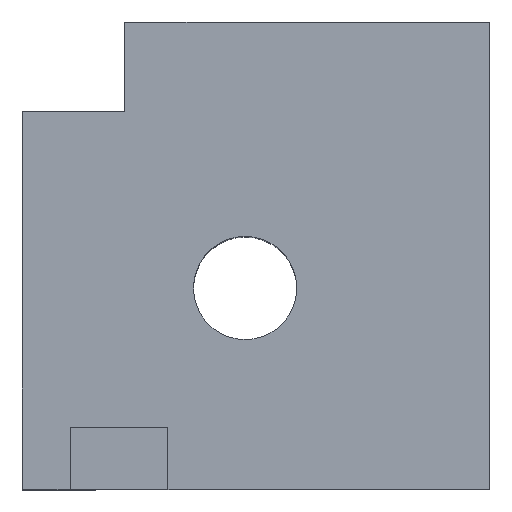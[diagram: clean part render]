
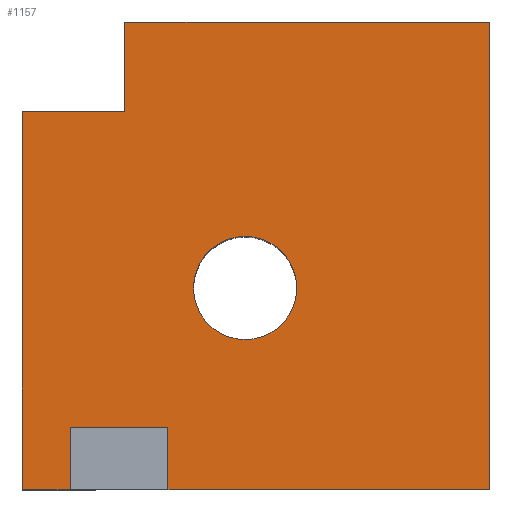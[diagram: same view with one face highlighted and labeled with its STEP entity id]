
A CAD part, top view. The second image highlights one B-rep face of the part: STEP entity #1157.
In plain terms, the highlighted planar face has unit normal (0, 0, 1).
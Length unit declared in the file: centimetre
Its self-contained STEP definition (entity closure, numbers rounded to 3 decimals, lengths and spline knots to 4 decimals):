
#21 = VECTOR ( 'NONE', #578, 100. ) ;
#28 = CARTESIAN_POINT ( 'NONE',  ( 311.6351, 132.5318, 1000. ) ) ;
#30 = VERTEX_POINT ( 'NONE', #638 ) ;
#46 = VECTOR ( 'NONE', #551, 100. ) ;
#52 = VERTEX_POINT ( 'NONE', #813 ) ;
#57 = VERTEX_POINT ( 'NONE', #831 ) ;
#63 = DIRECTION ( 'NONE',  ( 1., 0., 0. ) ) ;
#64 = VECTOR ( 'NONE', #948, 100. ) ;
#112 = ORIENTED_EDGE ( 'NONE', *, *, #1010, .T. ) ;
#138 = EDGE_CURVE ( 'NONE', #1096, #30, #283, .T. ) ;
#144 = ORIENTED_EDGE ( 'NONE', *, *, #1189, .F. ) ;
#157 = ORIENTED_EDGE ( 'NONE', *, *, #982, .F. ) ;
#161 = VECTOR ( 'NONE', #1172, 100. ) ;
#169 = DIRECTION ( 'NONE',  ( 0., 1., 0. ) ) ;
#181 = CARTESIAN_POINT ( 'NONE',  ( 1000., 1000., 1000. ) ) ;
#198 = CARTESIAN_POINT ( 'NONE',  ( 1000., 0., 1000. ) ) ;
#199 = CARTESIAN_POINT ( 'NONE',  ( 219.3387, 808.4409, 1000. ) ) ;
#214 = AXIS2_PLACEMENT_3D ( 'NONE', #576, #1161, #963 ) ;
#216 = CARTESIAN_POINT ( 'NONE',  ( 0., 808.4409, 1000. ) ) ;
#232 = EDGE_CURVE ( 'NONE', #1096, #1147, #668, .T. ) ;
#276 = DIRECTION ( 'NONE',  ( 1., 0., 0. ) ) ;
#283 = LINE ( 'NONE', #1129, #372 ) ;
#285 = DIRECTION ( 'NONE',  ( -1., 0., 0. ) ) ;
#296 = CARTESIAN_POINT ( 'NONE',  ( 0., 0., 1000. ) ) ;
#318 = VERTEX_POINT ( 'NONE', #697 ) ;
#319 = FACE_OUTER_BOUND ( 'NONE', #720, .T. ) ;
#343 = VECTOR ( 'NONE', #276, 100. ) ;
#347 = EDGE_LOOP ( 'NONE', ( #157, #590 ) ) ;
#354 = DIRECTION ( 'NONE',  ( 0., 1., 0. ) ) ;
#359 = LINE ( 'NONE', #425, #883 ) ;
#361 = LINE ( 'NONE', #1108, #1220 ) ;
#365 = EDGE_CURVE ( 'NONE', #1141, #52, #1165, .T. ) ;
#372 = VECTOR ( 'NONE', #169, 100. ) ;
#382 = DIRECTION ( 'NONE',  ( 0., 0., 1. ) ) ;
#388 = CARTESIAN_POINT ( 'NONE',  ( 0., 1000., 1000. ) ) ;
#415 = EDGE_CURVE ( 'NONE', #961, #774, #359, .T. ) ;
#417 = CIRCLE ( 'NONE', #214, 110.5036 ) ;
#425 = CARTESIAN_POINT ( 'NONE',  ( 0., 0., 1000. ) ) ;
#452 = CARTESIAN_POINT ( 'NONE',  ( 0., 1000., 1000. ) ) ;
#454 = CARTESIAN_POINT ( 'NONE',  ( 0., 0., 1000. ) ) ;
#496 = ORIENTED_EDGE ( 'NONE', *, *, #138, .F. ) ;
#505 = CARTESIAN_POINT ( 'NONE',  ( 102.3474, 0., 1000. ) ) ;
#513 = ORIENTED_EDGE ( 'NONE', *, *, #232, .T. ) ;
#542 = CARTESIAN_POINT ( 'NONE',  ( 476.7429, 430.6778, 1000. ) ) ;
#551 = DIRECTION ( 'NONE',  ( -1., 0., 0. ) ) ;
#559 = LINE ( 'NONE', #181, #64 ) ;
#561 = ORIENTED_EDGE ( 'NONE', *, *, #930, .F. ) ;
#571 = CIRCLE ( 'NONE', #595, 110.5036 ) ;
#576 = CARTESIAN_POINT ( 'NONE',  ( 476.7429, 430.6778, 1000. ) ) ;
#578 = DIRECTION ( 'NONE',  ( -1., 0., 0. ) ) ;
#590 = ORIENTED_EDGE ( 'NONE', *, *, #1088, .F. ) ;
#593 = VERTEX_POINT ( 'NONE', #937 ) ;
#595 = AXIS2_PLACEMENT_3D ( 'NONE', #542, #382, #63 ) ;
#604 = VERTEX_POINT ( 'NONE', #454 ) ;
#625 = EDGE_CURVE ( 'NONE', #774, #593, #559, .T. ) ;
#638 = CARTESIAN_POINT ( 'NONE',  ( 219.3387, 1000., 1000. ) ) ;
#664 = DIRECTION ( 'NONE',  ( 0., 0., 1. ) ) ;
#668 = LINE ( 'NONE', #199, #21 ) ;
#669 = EDGE_CURVE ( 'NONE', #1147, #604, #1239, .T. ) ;
#697 = CARTESIAN_POINT ( 'NONE',  ( 587.2465, 430.6778, 1000. ) ) ;
#720 = EDGE_LOOP ( 'NONE', ( #795, #561, #144, #797, #923, #112, #496, #513, #1117, #1109 ) ) ;
#734 = CARTESIAN_POINT ( 'NONE',  ( 311.6351, 0., 1000. ) ) ;
#752 = VECTOR ( 'NONE', #285, 100. ) ;
#765 = DIRECTION ( 'NONE',  ( 0., -1., 0. ) ) ;
#774 = VERTEX_POINT ( 'NONE', #198 ) ;
#795 = ORIENTED_EDGE ( 'NONE', *, *, #365, .F. ) ;
#797 = ORIENTED_EDGE ( 'NONE', *, *, #415, .T. ) ;
#813 = CARTESIAN_POINT ( 'NONE',  ( 102.3474, 0., 1000. ) ) ;
#831 = CARTESIAN_POINT ( 'NONE',  ( 366.2393, 430.6778, 1000. ) ) ;
#857 = LINE ( 'NONE', #1224, #46 ) ;
#883 = VECTOR ( 'NONE', #896, 100. ) ;
#896 = DIRECTION ( 'NONE',  ( 1., 0., 0. ) ) ;
#923 = ORIENTED_EDGE ( 'NONE', *, *, #625, .T. ) ;
#927 = LINE ( 'NONE', #1008, #343 ) ;
#930 = EDGE_CURVE ( 'NONE', #1184, #1141, #857, .T. ) ;
#937 = CARTESIAN_POINT ( 'NONE',  ( 1000., 1000., 1000. ) ) ;
#947 = LINE ( 'NONE', #452, #752 ) ;
#948 = DIRECTION ( 'NONE',  ( 0., 1., 0. ) ) ;
#961 = VERTEX_POINT ( 'NONE', #734 ) ;
#963 = DIRECTION ( 'NONE',  ( 1., 0., 0. ) ) ;
#974 = CARTESIAN_POINT ( 'NONE',  ( 219.3387, 808.4409, 1000. ) ) ;
#982 = EDGE_CURVE ( 'NONE', #318, #57, #571, .T. ) ;
#1008 = CARTESIAN_POINT ( 'NONE',  ( 0., 0., 1000. ) ) ;
#1010 = EDGE_CURVE ( 'NONE', #593, #30, #947, .T. ) ;
#1039 = DIRECTION ( 'NONE',  ( 1., 0., 0. ) ) ;
#1053 = CARTESIAN_POINT ( 'NONE',  ( 102.3474, 132.5318, 1000. ) ) ;
#1059 = VECTOR ( 'NONE', #765, 100. ) ;
#1067 = FACE_BOUND ( 'NONE', #347, .T. ) ;
#1088 = EDGE_CURVE ( 'NONE', #57, #318, #417, .T. ) ;
#1096 = VERTEX_POINT ( 'NONE', #974 ) ;
#1108 = CARTESIAN_POINT ( 'NONE',  ( 311.6351, 0., 1000. ) ) ;
#1109 = ORIENTED_EDGE ( 'NONE', *, *, #1206, .T. ) ;
#1117 = ORIENTED_EDGE ( 'NONE', *, *, #669, .T. ) ;
#1129 = CARTESIAN_POINT ( 'NONE',  ( 219.3387, 1000., 1000. ) ) ;
#1140 = PLANE ( 'NONE',  #1236 ) ;
#1141 = VERTEX_POINT ( 'NONE', #1053 ) ;
#1147 = VERTEX_POINT ( 'NONE', #216 ) ;
#1157 = ADVANCED_FACE ( 'NONE', ( #319, #1067 ), #1140, .T. ) ;
#1161 = DIRECTION ( 'NONE',  ( 0., 0., 1. ) ) ;
#1165 = LINE ( 'NONE', #505, #161 ) ;
#1172 = DIRECTION ( 'NONE',  ( 0., -1., 0. ) ) ;
#1184 = VERTEX_POINT ( 'NONE', #28 ) ;
#1189 = EDGE_CURVE ( 'NONE', #961, #1184, #361, .T. ) ;
#1206 = EDGE_CURVE ( 'NONE', #604, #52, #927, .T. ) ;
#1220 = VECTOR ( 'NONE', #354, 100. ) ;
#1224 = CARTESIAN_POINT ( 'NONE',  ( 102.3474, 132.5318, 1000. ) ) ;
#1236 = AXIS2_PLACEMENT_3D ( 'NONE', #296, #664, #1039 ) ;
#1239 = LINE ( 'NONE', #388, #1059 ) ;
